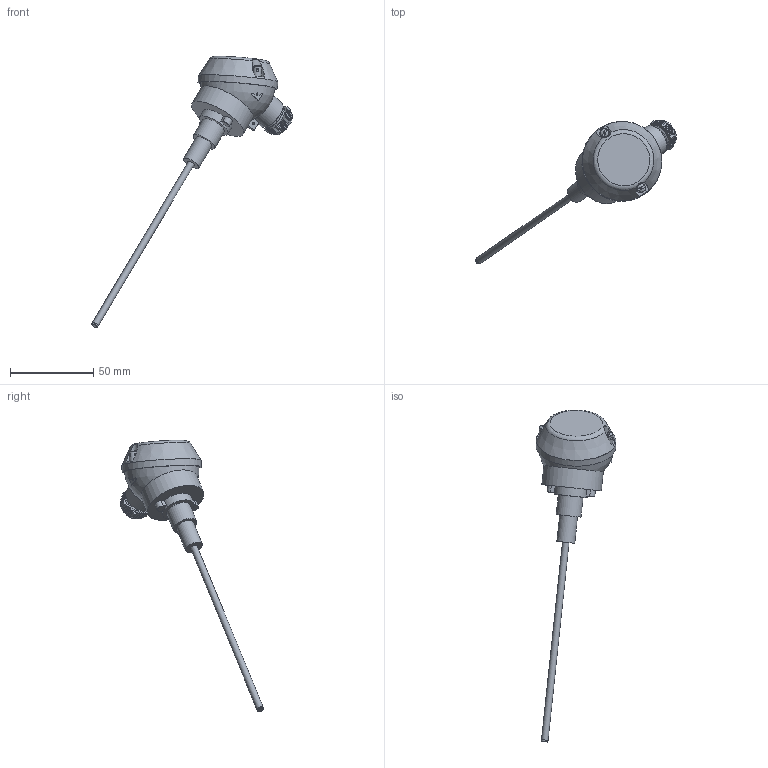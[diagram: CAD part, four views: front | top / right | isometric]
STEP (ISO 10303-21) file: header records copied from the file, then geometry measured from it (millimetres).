
FILE_DESCRIPTION(('STEP AP203'), '1');
FILE_NAME('òñï-í 5.0-120ìì(ñáîðêà)', '', ('UNSPECIFIED'), ('UNSPECIFIED'), 'ASCON STEP Converter 1.6', 'ASCON Math Kernel', '');
FILE_SCHEMA(('CONFIG_CONTROL_DESIGN'));
Length unit declared in the file: millimetre
Products named in the file (17): 栖闉罻; ﾘ琺矜 4; Ãàéêà Ì4; Êë êàëîäêà 731196-002; ﾘ琺矜 758480-006; Êîðïóñ 731196_Ïî óìîë÷àíèþ; Êîëüöî óïëîòíèòåëüíîå 754100-003_Ïî óìîë÷àíèþ; Âèíò Ì3-6; Âèíò 758410-005_Ïî óìîë÷àíèþ; Ïðîêëàäêà 754100_Ïî óìîë÷àíèþ; Êîðïóñ 723110-008-09_Ïî óìîë÷àíèþ; Çàãëóøêà 752513-004-01_Ïî óìîë÷àíèþ; Êðûøêà 753214_Ïî óìîë÷àíèþ; Ïåðåìû÷êà 758480-009; Âòóëêà ðåçüáîâàÿ 715341-002_Ïî óìîë÷àíèþ; Âèíò 715341-003_Ïî óìîë÷àíèþ
Assembly tree (40 placements, depth 3):
  栖闉罻
    ﾘ琺矜 4  x12
    Ãàéêà Ì4  x8
    Êë êàëîäêà 731196-002
    ﾘ琺矜 758480-006  x4
    Êîðïóñ 731196_Ïî óìîë÷àíèþ
    Êîëüöî óïëîòíèòåëüíîå 754100-003_Ïî óìîë÷àíèþ
    Âèíò Ì3-6  x2
    Âèíò 758410-005_Ïî óìîë÷àíèþ  x2
    Ïðîêëàäêà 754100_Ïî óìîë÷àíèþ
    Êîðïóñ 723110-008-09_Ïî óìîë÷àíèþ
      (unnamed)
      Çàãëóøêà 752513-004-01_Ïî óìîë÷àíèþ
    Êðûøêà 753214_Ïî óìîë÷àíèþ
    Ïåðåìû÷êà 758480-009  x2
    Âòóëêà ðåçüáîâàÿ 715341-002_Ïî óìîë÷àíèþ
    Âèíò 715341-003_Ïî óìîë÷àíèþ
Bounding box: 120.91 x 86.41 x 163.36 mm (x, y, z)
Volume: 41215.1 mm3; surface area: 35393.2 mm2
Topology: 39 solids, 39 shells, 821 faces, 2134 edges, 1416 vertices
Faces by surface type: plane 361, cylinder 305, cone 70, bspline 64, torus 19, sphere 2
Full cylindrical faces by diameter (mm): 1.6 x9, 2.46 x2, 2.5 x2, 3 x3, 3.4 x2, 3.5 x1, 4 x14, 4.2 x4, 4.3 x4, 4.5 x1, 5 x2, 5.2 x1, 6 x3, 7 x1, 8 x1, 9 x12, 10 x1, 10.8 x1, 14 x1, 15 x1, 19 x1, 20 x1, 31 x1, 33 x1, 35 x1, 36 x1, 45.5 x1, 46 x1, 48 x1
Entity records: 112943 total; most frequent: CARTESIAN_POINT 95135, ORIENTED_EDGE 2736, DIRECTION 2019, EDGE_CURVE 1368, VERTEX_POINT 950, AXIS2_PLACEMENT_3D 748, EDGE_LOOP 668, B_SPLINE_CURVE_WITH_KNOTS 593
